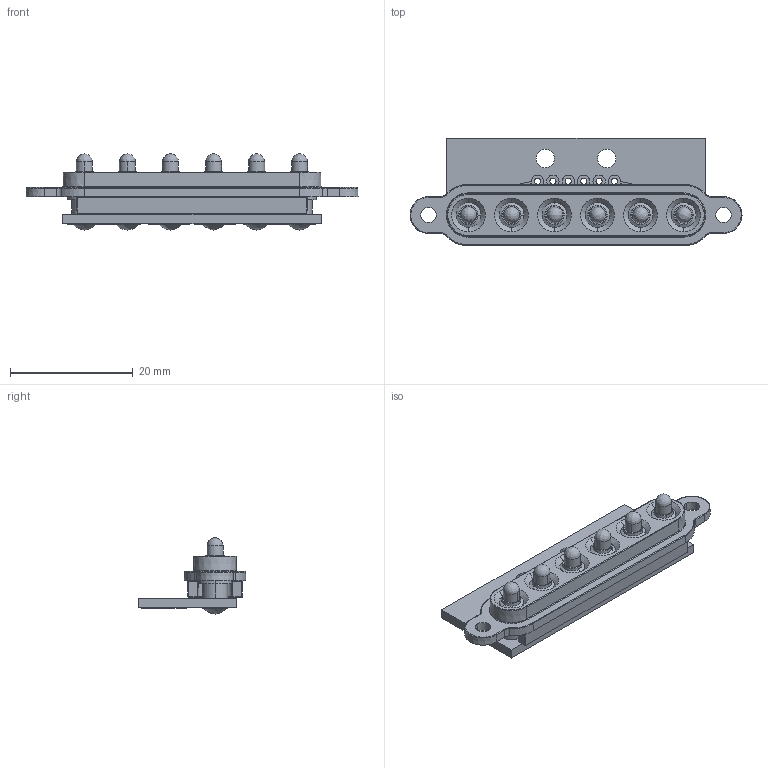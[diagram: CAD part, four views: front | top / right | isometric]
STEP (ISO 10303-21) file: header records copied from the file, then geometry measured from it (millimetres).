
FILE_DESCRIPTION (( 'STEP AP214' ), '1' );
FILE_NAME ('Swift-Dock-6P-SC.STEP', '2021-08-06T16:52:32', ( '' ), ( '' ), 'SwSTEP 2.0', 'SolidWorks 2021', '' );
FILE_SCHEMA (( 'AUTOMOTIVE_DESIGN' ));
Length unit declared in the file: millimetre
Products named in the file (9): Coda_PD11JST_pin_13; PCB_6 way_assy_1; Coda_PD11JST_body_13; solder spill_22; body_6 hole_1; Swift-Dock-6P-SC; Coda_PD11JST_assy_13; SD6P_Pin Array_6way; PCB_6 way_3
Assembly tree (18 placements, depth 4):
  Swift-Dock-6P-SC
    SD6P_Pin Array_6way
      body_6 hole_1
      PCB_6 way_assy_1
        PCB_6 way_3
      Coda_PD11JST_assy_13  x6
        Coda_PD11JST_body_13
        Coda_PD11JST_pin_13
    solder spill_22  x6
Bounding box: 54 x 17.5 x 12.41 mm (x, y, z)
Volume: 3114.2 mm3; surface area: 5031.6 mm2
Topology: 20 solids, 20 shells, 905 faces, 2154 edges, 1362 vertices
Faces by surface type: plane 366, cylinder 346, bspline 109, cone 84
Entity records: 31894 total; most frequent: CARTESIAN_POINT 6804, ORIENTED_EDGE 3540, DIRECTION 3390, EDGE_CURVE 1770, AXIS2_PLACEMENT_3D 1161, VERTEX_POINT 1127, LINE 1068, VECTOR 1068
